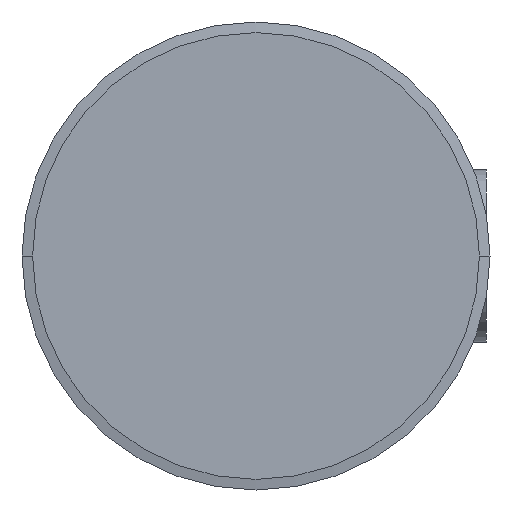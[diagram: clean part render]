
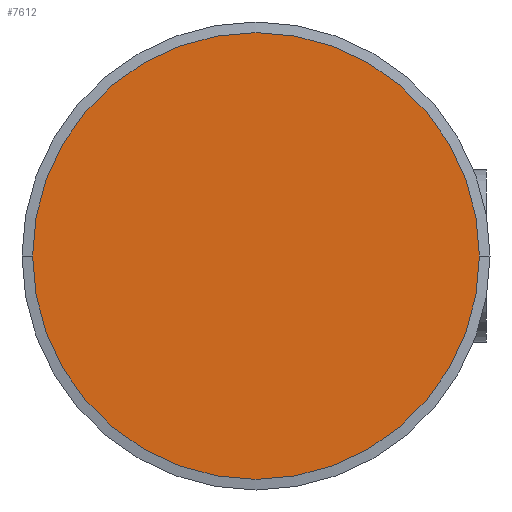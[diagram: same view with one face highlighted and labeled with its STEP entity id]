
A CAD part, left-side view. The second image highlights one B-rep face of the part: STEP entity #7612.
In plain terms, the highlighted planar face has unit normal (-1, 0, 0).
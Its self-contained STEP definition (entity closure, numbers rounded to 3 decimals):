
#2342=CARTESIAN_POINT('',(-61.,0.,0.));
#2343=DIRECTION('',(-1.,0.,0.));
#2344=DIRECTION('',(0.,-1.,0.));
#2345=AXIS2_PLACEMENT_3D('',#2342,#2343,#2344);
#2347=CARTESIAN_POINT('',(-61.,0.,0.));
#2348=DIRECTION('',(-1.,0.,0.));
#2349=DIRECTION('',(0.,1.,0.));
#2350=AXIS2_PLACEMENT_3D('',#2347,#2348,#2349);
#2676=CARTESIAN_POINT('',(-61.,-31.023,0.));
#2677=CARTESIAN_POINT('',(-61.,31.023,0.));
#2678=VERTEX_POINT('',#2676);
#2679=VERTEX_POINT('',#2677);
#7602=CARTESIAN_POINT('',(-61.,0.,0.));
#7603=DIRECTION('',(-1.,0.,0.));
#7604=DIRECTION('',(0.,0.,-1.));
#7605=AXIS2_PLACEMENT_3D('',#7602,#7603,#7604);
#7606=PLANE('',#7605);
#7607=ORIENTED_EDGE('',*,*,#7580,.F.);
#7609=ORIENTED_EDGE('',*,*,#7608,.F.);
#7610=EDGE_LOOP('',(#7607,#7609));
#7611=FACE_OUTER_BOUND('',#7610,.F.);
#2346=CIRCLE('',#2345,31.023);
#2351=CIRCLE('',#2350,31.023);
#7580=EDGE_CURVE('',#2678,#2679,#2346,.T.);
#7608=EDGE_CURVE('',#2679,#2678,#2351,.T.);
#7612=ADVANCED_FACE('',(#7611),#7606,.T.);
